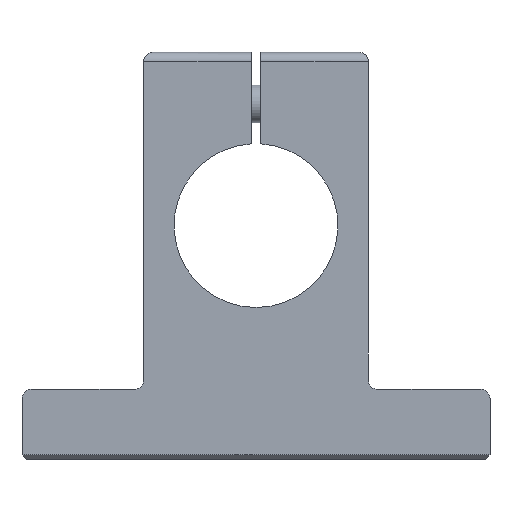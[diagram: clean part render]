
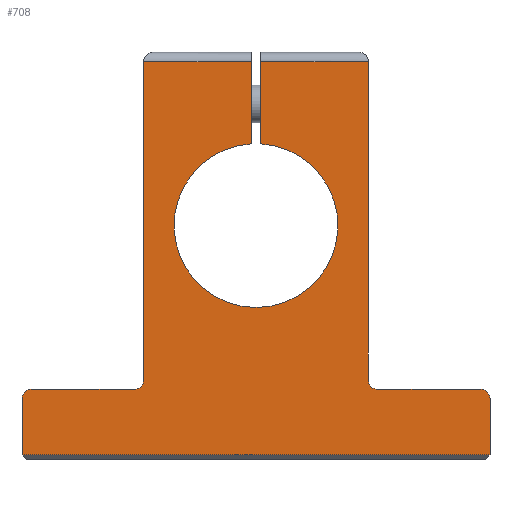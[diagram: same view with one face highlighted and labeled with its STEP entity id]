
A CAD part, left-side view. The second image highlights one B-rep face of the part: STEP entity #708.
In plain terms, the highlighted planar face has unit normal (-1, 0, 0).
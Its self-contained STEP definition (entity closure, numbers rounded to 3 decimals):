
#443=CARTESIAN_POINT('',(0.0,-1.,35.));
#444=VERTEX_POINT('',#443);
#452=CARTESIAN_POINT('',(0.0,-24.,35.));
#453=VERTEX_POINT('',#452);
#454=CARTESIAN_POINT('',(0.0,-1.,35.));
#455=DIRECTION('',(0.0,-1.0,0.0));
#456=VECTOR('',#455,23.);
#457=LINE('',#454,#456);
#458=EDGE_CURVE('',#444,#453,#457,.T.);
#548=CARTESIAN_POINT('',(0.0,-24.,-33.0));
#549=VERTEX_POINT('',#548);
#550=CARTESIAN_POINT('',(0.0,-24.,35.));
#551=DIRECTION('',(0.0,0.0,-1.0));
#552=VECTOR('',#551,68.0);
#553=LINE('',#550,#552);
#554=EDGE_CURVE('',#453,#549,#553,.T.);
#584=CARTESIAN_POINT('',(0.0,0.,-9.72));
#585=DIRECTION('',(1.0,0.0,0.0));
#586=DIRECTION('',(0.0,0.0,-1.0));
#587=AXIS2_PLACEMENT_3D('',#584,#585,#586);
#588=PLANE('',#587);
#589=ORIENTED_EDGE('',*,*,#458,.F.);
#590=CARTESIAN_POINT('',(0.0,-1.,17.471));
#591=VERTEX_POINT('',#590);
#592=CARTESIAN_POINT('',(0.0,-1.,17.471));
#593=DIRECTION('',(0.0,0.0,1.0));
#594=VECTOR('',#593,17.529);
#595=LINE('',#592,#594);
#596=EDGE_CURVE('',#591,#444,#595,.T.);
#597=ORIENTED_EDGE('',*,*,#596,.F.);
#598=CARTESIAN_POINT('',(0.0,1.,17.471));
#599=VERTEX_POINT('',#598);
#600=CARTESIAN_POINT('',(0.0,0.0,0.));
#601=DIRECTION('',(-1.0,0.0,0.0));
#602=DIRECTION('',(0.0,-1.0,0.0));
#603=AXIS2_PLACEMENT_3D('',#600,#601,#602);
#604=CIRCLE('',#603,17.5);
#605=EDGE_CURVE('',#599,#591,#604,.T.);
#606=ORIENTED_EDGE('',*,*,#605,.F.);
#607=CARTESIAN_POINT('',(0.0,1.,35.));
#608=VERTEX_POINT('',#607);
#609=CARTESIAN_POINT('',(0.0,1.,35.));
#610=DIRECTION('',(0.0,0.0,-1.0));
#611=VECTOR('',#610,17.529);
#612=LINE('',#609,#611);
#613=EDGE_CURVE('',#608,#599,#612,.T.);
#614=ORIENTED_EDGE('',*,*,#613,.F.);
#615=CARTESIAN_POINT('',(0.0,24.,35.));
#616=VERTEX_POINT('',#615);
#617=CARTESIAN_POINT('',(0.0,24.,35.));
#618=DIRECTION('',(0.0,-1.0,0.0));
#619=VECTOR('',#618,23.);
#620=LINE('',#617,#619);
#621=EDGE_CURVE('',#616,#608,#620,.T.);
#622=ORIENTED_EDGE('',*,*,#621,.F.);
#623=CARTESIAN_POINT('',(0.0,24.,-33.0));
#624=VERTEX_POINT('',#623);
#625=CARTESIAN_POINT('',(0.0,24.,-33.0));
#626=DIRECTION('',(0.0,0.0,1.0));
#627=VECTOR('',#626,68.0);
#628=LINE('',#625,#627);
#629=EDGE_CURVE('',#624,#616,#628,.T.);
#630=ORIENTED_EDGE('',*,*,#629,.F.);
#631=CARTESIAN_POINT('',(0.0,26.,-35.0));
#632=VERTEX_POINT('',#631);
#633=CARTESIAN_POINT('',(0.0,26.,-33.0));
#634=DIRECTION('',(-1.,0.0,0.0));
#635=DIRECTION('',(0.0,-0.707,-0.707));
#636=AXIS2_PLACEMENT_3D('',#633,#634,#635);
#637=CIRCLE('',#636,2.);
#638=EDGE_CURVE('',#632,#624,#637,.T.);
#639=ORIENTED_EDGE('',*,*,#638,.F.);
#640=CARTESIAN_POINT('',(0.0,48.,-35.));
#641=VERTEX_POINT('',#640);
#642=CARTESIAN_POINT('',(0.0,48.,-35.));
#643=DIRECTION('',(0.0,-1.0,0.0));
#644=VECTOR('',#643,22.);
#645=LINE('',#642,#644);
#646=EDGE_CURVE('',#641,#632,#645,.T.);
#647=ORIENTED_EDGE('',*,*,#646,.F.);
#648=CARTESIAN_POINT('',(0.0,50.0,-37.));
#649=VERTEX_POINT('',#648);
#650=CARTESIAN_POINT('',(0.0,48.,-37.));
#651=DIRECTION('',(1.,0.0,0.0));
#652=DIRECTION('',(0.0,0.707,0.707));
#653=AXIS2_PLACEMENT_3D('',#650,#651,#652);
#654=CIRCLE('',#653,2.);
#655=EDGE_CURVE('',#649,#641,#654,.T.);
#656=ORIENTED_EDGE('',*,*,#655,.F.);
#657=CARTESIAN_POINT('',(0.0,50.0,-49.0));
#658=VERTEX_POINT('',#657);
#659=CARTESIAN_POINT('',(0.0,50.0,-49.0));
#660=DIRECTION('',(0.0,0.0,1.0));
#661=VECTOR('',#660,12.);
#662=LINE('',#659,#661);
#663=EDGE_CURVE('',#658,#649,#662,.T.);
#664=ORIENTED_EDGE('',*,*,#663,.F.);
#665=CARTESIAN_POINT('',(0.0,-50.0,-49.0));
#666=VERTEX_POINT('',#665);
#667=CARTESIAN_POINT('',(0.0,-50.0,-49.0));
#668=DIRECTION('',(0.0,1.0,0.0));
#669=VECTOR('',#668,100.0);
#670=LINE('',#667,#669);
#671=EDGE_CURVE('',#666,#658,#670,.T.);
#672=ORIENTED_EDGE('',*,*,#671,.F.);
#673=CARTESIAN_POINT('',(0.0,-50.0,-37.));
#674=VERTEX_POINT('',#673);
#675=CARTESIAN_POINT('',(0.0,-50.0,-37.));
#676=DIRECTION('',(0.0,0.0,-1.0));
#677=VECTOR('',#676,12.);
#678=LINE('',#675,#677);
#679=EDGE_CURVE('',#674,#666,#678,.T.);
#680=ORIENTED_EDGE('',*,*,#679,.F.);
#681=CARTESIAN_POINT('',(0.0,-48.,-35.));
#682=VERTEX_POINT('',#681);
#683=CARTESIAN_POINT('',(0.0,-48.,-37.));
#684=DIRECTION('',(1.,0.0,0.0));
#685=DIRECTION('',(0.0,-0.707,0.707));
#686=AXIS2_PLACEMENT_3D('',#683,#684,#685);
#687=CIRCLE('',#686,2.);
#688=EDGE_CURVE('',#682,#674,#687,.T.);
#689=ORIENTED_EDGE('',*,*,#688,.F.);
#690=CARTESIAN_POINT('',(0.0,-26.,-35.));
#691=VERTEX_POINT('',#690);
#692=CARTESIAN_POINT('',(0.0,-26.,-35.));
#693=DIRECTION('',(0.0,-1.0,0.0));
#694=VECTOR('',#693,22.);
#695=LINE('',#692,#694);
#696=EDGE_CURVE('',#691,#682,#695,.T.);
#697=ORIENTED_EDGE('',*,*,#696,.F.);
#698=CARTESIAN_POINT('',(0.0,-26.,-33.0));
#699=DIRECTION('',(-1.,0.0,0.0));
#700=DIRECTION('',(0.0,0.707,-0.707));
#701=AXIS2_PLACEMENT_3D('',#698,#699,#700);
#702=CIRCLE('',#701,2.);
#703=EDGE_CURVE('',#549,#691,#702,.T.);
#704=ORIENTED_EDGE('',*,*,#703,.F.);
#705=ORIENTED_EDGE('',*,*,#554,.F.);
#706=EDGE_LOOP('',(#589,#597,#606,#614,#622,#630,#639,#647,#656,#664,#672,#680,#689,#697,#704,#705));
#707=FACE_OUTER_BOUND('',#706,.T.);
#708=ADVANCED_FACE('',(#707),#588,.F.);
